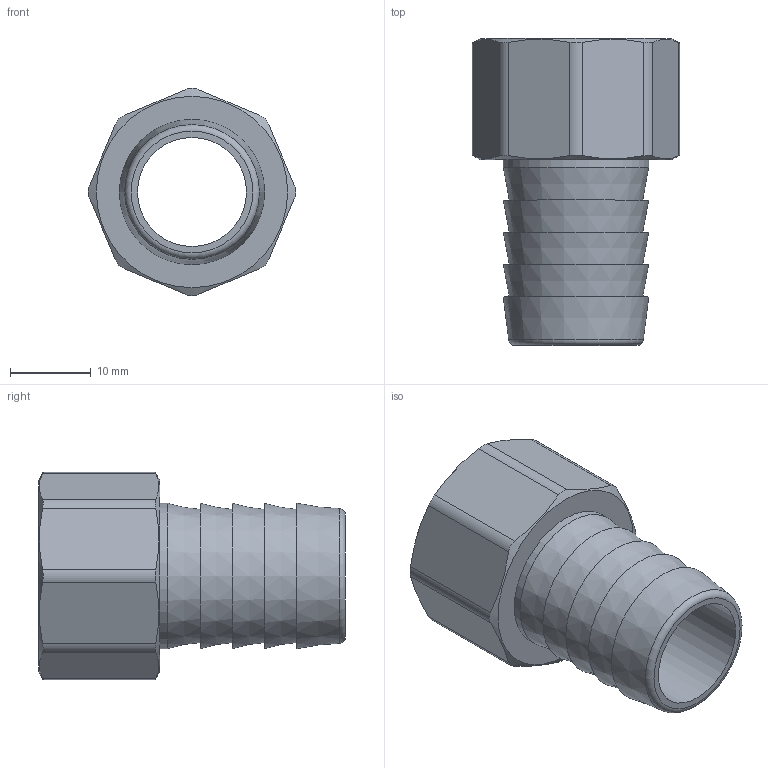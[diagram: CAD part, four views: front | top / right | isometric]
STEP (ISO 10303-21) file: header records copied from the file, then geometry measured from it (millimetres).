
FILE_DESCRIPTION(('STEP AP203'), '1');
FILE_NAME('覆.753154.015 - VTr.654.N.0418 幄鼭歑', '2024-08-02T07:36:27', ('Boss'), (''), 'C3D Converter', 'C3D Toolkit', '');
FILE_SCHEMA(('CONFIG_CONTROL_DESIGN'));
Length unit declared in the file: millimetre
Products named in the file (1): ВР.753154.015
Bounding box: 25.65 x 38 x 25.65 mm (x, y, z)
Volume: 5467.5 mm3; surface area: 4938.7 mm2
Topology: 1 solids, 1 shells, 37 faces, 84 edges, 55 vertices
Faces by surface type: plane 16, cylinder 11, cone 9, torus 1
Full cylindrical faces by diameter (mm): 13.5 x1, 18 x1, 18.632 x1
Entity records: 1995 total; most frequent: CARTESIAN_POINT 1222, ORIENTED_EDGE 142, DIRECTION 134, EDGE_CURVE 71, AXIS2_PLACEMENT_3D 59, EDGE_LOOP 58, VERTEX_POINT 55, ADVANCED_FACE 37
